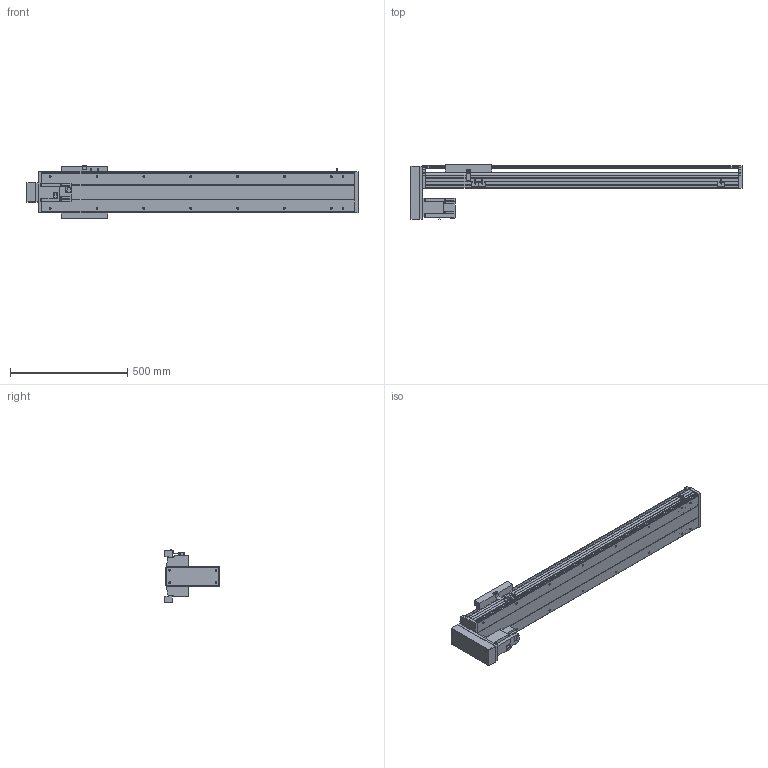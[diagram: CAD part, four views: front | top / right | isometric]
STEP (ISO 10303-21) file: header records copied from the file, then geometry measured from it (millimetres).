
FILE_DESCRIPTION(/* description */ ('STEP AP214'),/* implementation_level */ '2;1');
FILE_NAME(/* name */ 'PSS200-L10-S1000-BM-T75-C1-N(0)',/* time_stamp */ '2022-06-29T09:54:54+02:00',/* author */ ('License CC BY-ND 4.0'),/* organization */ ('CADENAS'),/* preprocessor_version */ 'ST-DEVELOPER v18.102',/* originating_system */ 'PARTsolutions',/* authorisation */ ' ');
FILE_SCHEMA (('AUTOMOTIVE_DESIGN {1 0 10303 214 3 1 1}'));
Length unit declared in the file: millimetre
Products named in the file (8): PSS200-L10-S1000-BM-T75-C1-N(0); PSS200-S1000-BM-N_S; T75-p1; PSS200BM-N_h; PSS200-N_sensor; PSS200-BM-C1-N_sl; PSS200-N_Q; PSS200-S1000-BM-C1-N_body
Assembly tree (9 placements, depth 2):
  PSS200-L10-S1000-BM-T75-C1-N(0)
    PSS200-S1000-BM-N_S
    T75-p1
    PSS200BM-N_h
    PSS200-N_sensor  x3
    PSS200-BM-C1-N_sl
    PSS200-N_Q
    PSS200-S1000-BM-C1-N_body
Bounding box: 1416.85 x 234.45 x 223.86 mm (x, y, z)
Volume: 9252196.6 mm3; surface area: 2222255.3 mm2
Topology: 9 solids, 9 shells, 606 faces, 1625 edges, 1078 vertices
Faces by surface type: plane 452, cylinder 126, cone 24, sphere 4
Full cylindrical faces by diameter (mm): 4 x2, 4.5 x4, 6 x7, 6.647 x20, 7.4 x4, 8 x8, 10 x6, 25 x1, 40 x1, 67 x1
Entity records: 16852 total; most frequent: CARTESIAN_POINT 2917, DIRECTION 2787, ORIENTED_EDGE 2746, EDGE_CURVE 1373, LINE 1071, VECTOR 1071, VERTEX_POINT 956, AXIS2_PLACEMENT_3D 858
